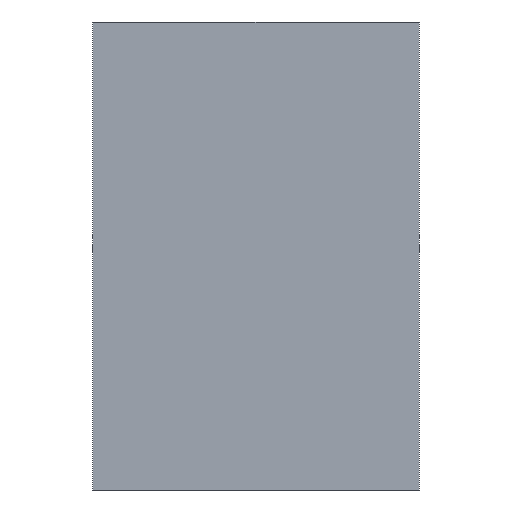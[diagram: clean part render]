
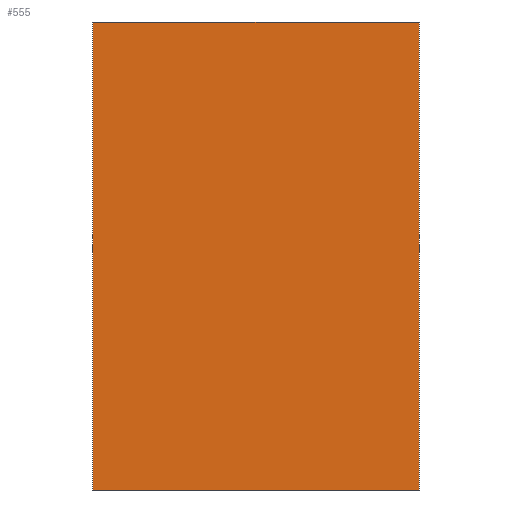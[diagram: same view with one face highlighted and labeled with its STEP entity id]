
A CAD part, front view. The second image highlights one B-rep face of the part: STEP entity #555.
In plain terms, the highlighted planar face has unit normal (0, -1, 0).
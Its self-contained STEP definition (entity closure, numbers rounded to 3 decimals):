
#53=DIRECTION('',(0.,0.,1.));
#54=VECTOR('',#53,165.);
#55=CARTESIAN_POINT('',(-57.5,33.4,-103.5));
#56=LINE('',#55,#54);
#57=DIRECTION('',(1.,0.,0.));
#58=VECTOR('',#57,115.);
#59=CARTESIAN_POINT('',(-57.5,33.4,61.5));
#60=LINE('',#59,#58);
#61=DIRECTION('',(0.,0.,-1.));
#62=VECTOR('',#61,165.);
#63=CARTESIAN_POINT('',(57.5,33.4,61.5));
#64=LINE('',#63,#62);
#65=DIRECTION('',(-1.,0.,0.));
#66=VECTOR('',#65,115.);
#67=CARTESIAN_POINT('',(57.5,33.4,-103.5));
#68=LINE('',#67,#66);
#407=CARTESIAN_POINT('',(-57.5,33.4,-103.5));
#408=CARTESIAN_POINT('',(-57.5,33.4,61.5));
#409=VERTEX_POINT('',#407);
#410=VERTEX_POINT('',#408);
#411=CARTESIAN_POINT('',(57.5,33.4,61.5));
#412=CARTESIAN_POINT('',(57.5,33.4,-103.5));
#413=VERTEX_POINT('',#411);
#414=VERTEX_POINT('',#412);
#542=CARTESIAN_POINT('',(0.,33.4,-21.));
#543=DIRECTION('',(0.,-1.,0.));
#544=DIRECTION('',(-1.,0.,0.));
#545=AXIS2_PLACEMENT_3D('',#542,#543,#544);
#546=PLANE('',#545);
#547=ORIENTED_EDGE('',*,*,#533,.T.);
#549=ORIENTED_EDGE('',*,*,#548,.T.);
#551=ORIENTED_EDGE('',*,*,#550,.T.);
#552=ORIENTED_EDGE('',*,*,#521,.T.);
#553=EDGE_LOOP('',(#547,#549,#551,#552));
#554=FACE_OUTER_BOUND('',#553,.F.);
#555=ADVANCED_FACE('',(#554),#546,.T.);
#521=EDGE_CURVE('',#414,#409,#68,.T.);
#533=EDGE_CURVE('',#409,#410,#56,.T.);
#548=EDGE_CURVE('',#410,#413,#60,.T.);
#550=EDGE_CURVE('',#413,#414,#64,.T.);
